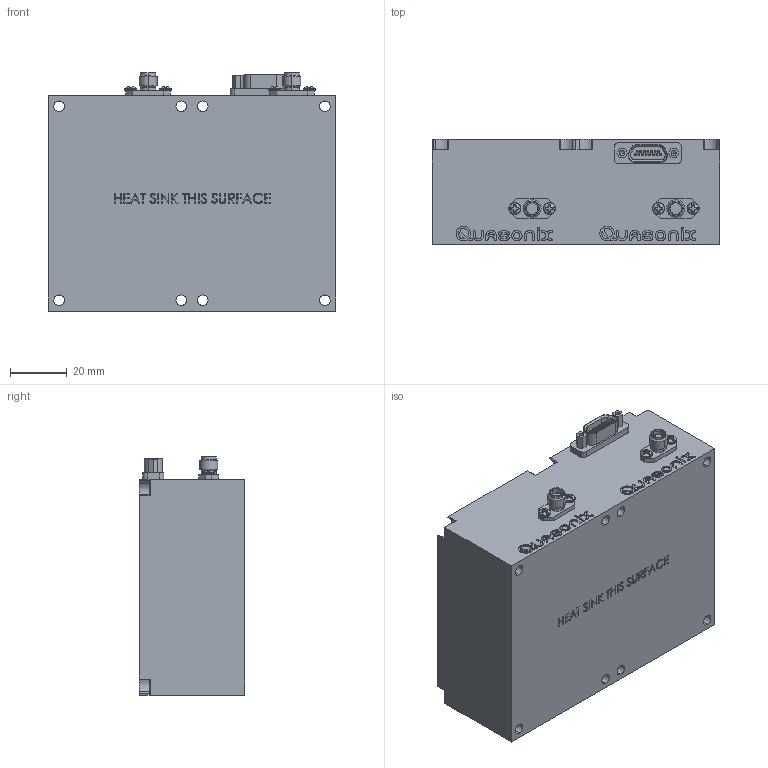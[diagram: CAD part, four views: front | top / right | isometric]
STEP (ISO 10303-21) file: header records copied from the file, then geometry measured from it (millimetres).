
FILE_DESCRIPTION (( 'STEP AP214' ), '1' );
FILE_NAME ('18AD.STEP', '2017-07-20T18:48:45', ( '' ), ( '' ), 'SwSTEP 2.0', 'SolidWorks 2016', '' );
FILE_SCHEMA (( 'AUTOMOTIVE_DESIGN' ));
Length unit declared in the file: inch
Products named in the file (1): 18AD
Bounding box: 101.6 x 37.22 x 84.14 mm (x, y, z)
Volume: 285202.7 mm3; surface area: 34379.9 mm2
Topology: 10 solids, 10 shells, 939 faces, 2417 edges, 1596 vertices
Faces by surface type: plane 455, cylinder 211, bspline 208, cone 41, torus 16, sphere 8
Entity records: 47091 total; most frequent: CARTESIAN_POINT 13085, ORIENTED_EDGE 4834, DIRECTION 3831, EDGE_CURVE 2417, VERTEX_POINT 1596, VECTOR 1355, LINE 1355, AXIS2_PLACEMENT_3D 1238
